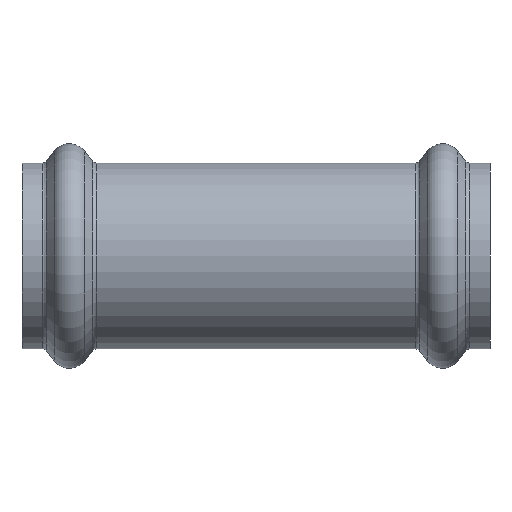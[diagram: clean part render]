
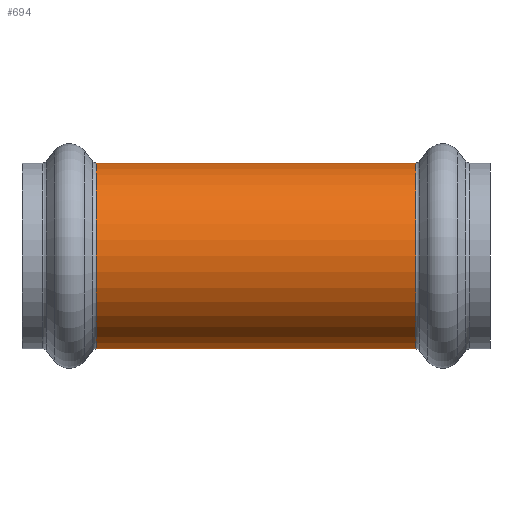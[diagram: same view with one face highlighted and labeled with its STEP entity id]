
A CAD part, front view. The second image highlights one B-rep face of the part: STEP entity #694.
In plain terms, the highlighted cylindrical face has radius 26.899 mm (diameter 53.797 mm), a full revolution.
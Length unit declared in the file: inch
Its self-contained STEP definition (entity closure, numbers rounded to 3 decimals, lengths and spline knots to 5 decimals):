
#51=CYLINDRICAL_SURFACE('',#788,1.059);
#61=LINE('',#1256,#75);
#75=VECTOR('',#994,1.059);
#104=FACE_OUTER_BOUND('',#133,.T.);
#133=EDGE_LOOP('',(#525,#526,#527,#528,#529,#530,#531,#532));
#192=CIRCLE('',#785,1.059);
#193=CIRCLE('',#786,1.059);
#194=CIRCLE('',#787,1.059);
#195=CIRCLE('',#789,1.059);
#196=CIRCLE('',#790,1.059);
#197=CIRCLE('',#791,1.059);
#278=VERTEX_POINT('',#1243);
#279=VERTEX_POINT('',#1245);
#280=VERTEX_POINT('',#1247);
#281=VERTEX_POINT('',#1251);
#282=VERTEX_POINT('',#1252);
#283=VERTEX_POINT('',#1254);
#370=EDGE_CURVE('',#279,#278,#192,.T.);
#371=EDGE_CURVE('',#280,#279,#193,.T.);
#372=EDGE_CURVE('',#278,#280,#194,.T.);
#373=EDGE_CURVE('',#281,#282,#195,.T.);
#374=EDGE_CURVE('',#283,#281,#196,.T.);
#375=EDGE_CURVE('',#283,#280,#61,.T.);
#376=EDGE_CURVE('',#282,#283,#197,.T.);
#525=ORIENTED_EDGE('',*,*,#373,.F.);
#526=ORIENTED_EDGE('',*,*,#374,.F.);
#527=ORIENTED_EDGE('',*,*,#375,.T.);
#528=ORIENTED_EDGE('',*,*,#371,.T.);
#529=ORIENTED_EDGE('',*,*,#370,.T.);
#530=ORIENTED_EDGE('',*,*,#372,.T.);
#531=ORIENTED_EDGE('',*,*,#375,.F.);
#532=ORIENTED_EDGE('',*,*,#376,.F.);
#694=ADVANCED_FACE('',(#104),#51,.T.);
#785=AXIS2_PLACEMENT_3D('',#1246,#982,#983);
#786=AXIS2_PLACEMENT_3D('',#1248,#984,#985);
#787=AXIS2_PLACEMENT_3D('',#1249,#986,#987);
#788=AXIS2_PLACEMENT_3D('',#1250,#988,#989);
#789=AXIS2_PLACEMENT_3D('',#1253,#990,#991);
#790=AXIS2_PLACEMENT_3D('',#1255,#992,#993);
#791=AXIS2_PLACEMENT_3D('',#1257,#995,#996);
#982=DIRECTION('center_axis',(1.,0.,0.));
#983=DIRECTION('ref_axis',(0.,1.,0.));
#984=DIRECTION('center_axis',(1.,0.,0.));
#985=DIRECTION('ref_axis',(0.,1.,0.));
#986=DIRECTION('center_axis',(1.,0.,0.));
#987=DIRECTION('ref_axis',(0.,1.,0.));
#988=DIRECTION('center_axis',(1.,0.,0.));
#989=DIRECTION('ref_axis',(0.,1.,0.));
#990=DIRECTION('center_axis',(1.,0.,0.));
#991=DIRECTION('ref_axis',(0.,1.,0.));
#992=DIRECTION('center_axis',(1.,0.,0.));
#993=DIRECTION('ref_axis',(0.,1.,0.));
#994=DIRECTION('',(-1.,0.,0.));
#995=DIRECTION('center_axis',(1.,0.,0.));
#996=DIRECTION('ref_axis',(0.,1.,0.));
#1243=CARTESIAN_POINT('',(-1.81968,0.,1.059));
#1245=CARTESIAN_POINT('',(-1.81968,1.059,0.));
#1246=CARTESIAN_POINT('Origin',(-1.81968,0.,
0.));
#1247=CARTESIAN_POINT('',(-1.81968,-1.059,0.));
#1248=CARTESIAN_POINT('Origin',(-1.81968,0.,
0.));
#1249=CARTESIAN_POINT('Origin',(-1.81968,0.,
0.));
#1250=CARTESIAN_POINT('Origin',(0.90984,0.,
0.));
#1251=CARTESIAN_POINT('',(1.81968,1.059,0.));
#1252=CARTESIAN_POINT('',(1.81968,0.,1.059));
#1253=CARTESIAN_POINT('Origin',(1.81968,0.,
0.));
#1254=CARTESIAN_POINT('',(1.81968,-1.059,0.));
#1255=CARTESIAN_POINT('Origin',(1.81968,0.,
0.));
#1256=CARTESIAN_POINT('',(0.90984,-1.059,0.));
#1257=CARTESIAN_POINT('Origin',(1.81968,0.,
0.));
